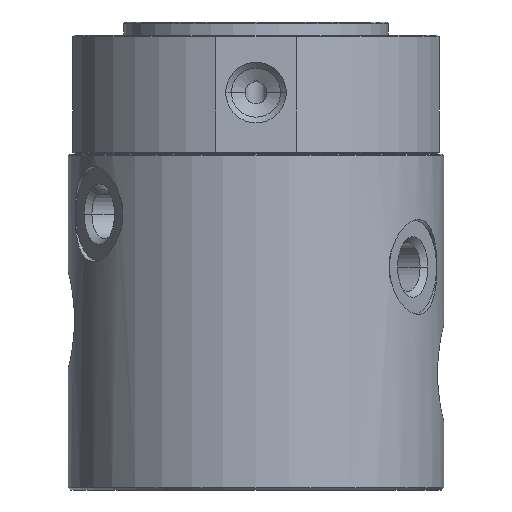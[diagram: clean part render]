
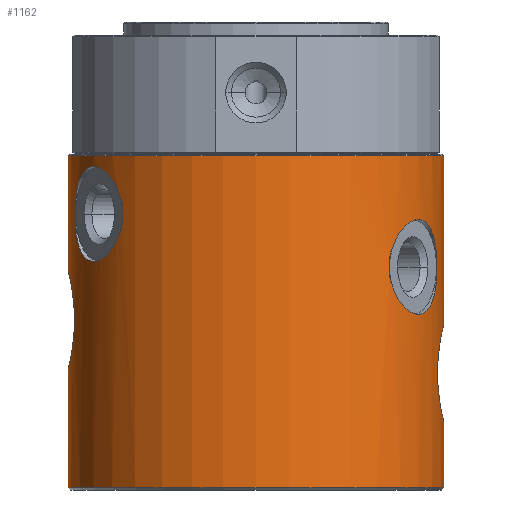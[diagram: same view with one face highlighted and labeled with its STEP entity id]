
A CAD part, front view. The second image highlights one B-rep face of the part: STEP entity #1162.
In plain terms, the highlighted cylindrical face has radius 42.5 mm (diameter 85 mm), a partial arc.
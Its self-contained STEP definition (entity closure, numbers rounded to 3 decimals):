
#283=FACE_BOUND('',#1747,.T.);
#284=FACE_BOUND('',#1748,.T.);
#285=FACE_BOUND('',#1749,.T.);
#348=B_SPLINE_CURVE_WITH_KNOTS('',3,(#7794,#7795,#7796,#7797,#7798,#7799,
#7800,#7801,#7802,#7803),.UNSPECIFIED.,.F.,.F.,(4,2,2,2,4),(0.,0.25,0.5,
0.75,1.),.UNSPECIFIED.);
#349=B_SPLINE_CURVE_WITH_KNOTS('',3,(#7811,#7812,#7813,#7814,#7815,#7816,
#7817,#7818,#7819,#7820),.UNSPECIFIED.,.F.,.F.,(4,2,2,2,4),(0.,0.25,0.5,
0.75,1.),.UNSPECIFIED.);
#350=B_SPLINE_CURVE_WITH_KNOTS('',3,(#7821,#7822,#7823,#7824,#7825,#7826),
 .UNSPECIFIED.,.F.,.F.,(4,2,4),(0.,0.5,1.),.UNSPECIFIED.);
#351=B_SPLINE_CURVE_WITH_KNOTS('',3,(#7829,#7830,#7831,#7832,#7833,#7834,
#7835,#7836,#7837,#7838),.UNSPECIFIED.,.F.,.F.,(4,2,2,2,4),(0.,0.25,0.5,
0.75,1.),.UNSPECIFIED.);
#352=B_SPLINE_CURVE_WITH_KNOTS('',3,(#7840,#7841,#7842,#7843,#7844,#7845),
 .UNSPECIFIED.,.F.,.F.,(4,2,4),(0.,0.5,1.),.UNSPECIFIED.);
#353=B_SPLINE_CURVE_WITH_KNOTS('',3,(#7846,#7847,#7848,#7849,#7850,#7851),
 .UNSPECIFIED.,.F.,.F.,(4,2,4),(0.,0.5,1.),.UNSPECIFIED.);
#354=B_SPLINE_CURVE_WITH_KNOTS('',3,(#7854,#7855,#7856,#7857,#7858,#7859,
#7860,#7861,#7862,#7863),.UNSPECIFIED.,.F.,.F.,(4,2,2,2,4),(0.,0.25,0.5,
0.75,1.),.UNSPECIFIED.);
#355=B_SPLINE_CURVE_WITH_KNOTS('',3,(#7865,#7866,#7867,#7868,#7869,#7870),
 .UNSPECIFIED.,.F.,.F.,(4,2,4),(0.,0.5,1.),.UNSPECIFIED.);
#468=CYLINDRICAL_SURFACE('',#4759,42.5);
#663=LINE('',#7787,#898);
#664=LINE('',#7792,#899);
#665=LINE('',#7805,#900);
#666=LINE('',#7809,#901);
#898=VECTOR('',#5927,1.);
#899=VECTOR('',#5930,1.);
#900=VECTOR('',#5931,1.);
#901=VECTOR('',#5934,1.);
#1162=ADVANCED_FACE('NO 19825',(#283,#284,#285),#468,.T.);
#1747=EDGE_LOOP('',(#2701,#2702,#2703,#2704,#2705,#2706,#2707,#2708));
#1748=EDGE_LOOP('',(#2709,#2710,#2711));
#1749=EDGE_LOOP('',(#2712,#2713,#2714));
#2701=ORIENTED_EDGE('',*,*,#3870,.T.);
#2702=ORIENTED_EDGE('',*,*,#3871,.T.);
#2703=ORIENTED_EDGE('',*,*,#3872,.F.);
#2704=ORIENTED_EDGE('',*,*,#3873,.F.);
#2705=ORIENTED_EDGE('',*,*,#3874,.F.);
#2706=ORIENTED_EDGE('',*,*,#3875,.T.);
#2707=ORIENTED_EDGE('',*,*,#3876,.T.);
#2708=ORIENTED_EDGE('',*,*,#3877,.F.);
#2709=ORIENTED_EDGE('',*,*,#3878,.F.);
#2710=ORIENTED_EDGE('',*,*,#3879,.F.);
#2711=ORIENTED_EDGE('',*,*,#3880,.F.);
#2712=ORIENTED_EDGE('',*,*,#3881,.F.);
#2713=ORIENTED_EDGE('',*,*,#3882,.F.);
#2714=ORIENTED_EDGE('',*,*,#3883,.F.);
#3333=VERTEX_POINT('',#7788);
#3334=VERTEX_POINT('',#7789);
#3335=VERTEX_POINT('',#7791);
#3336=VERTEX_POINT('',#7793);
#3337=VERTEX_POINT('',#7804);
#3338=VERTEX_POINT('',#7806);
#3339=VERTEX_POINT('',#7808);
#3340=VERTEX_POINT('',#7810);
#3341=VERTEX_POINT('',#7827);
#3342=VERTEX_POINT('',#7828);
#3343=VERTEX_POINT('',#7839);
#3344=VERTEX_POINT('',#7852);
#3345=VERTEX_POINT('',#7853);
#3346=VERTEX_POINT('',#7864);
#3870=EDGE_CURVE('NO 19834',#3333,#3334,#663,.T.);
#3871=EDGE_CURVE('NO 19840',#3334,#3335,#4247,.T.);
#3872=EDGE_CURVE('NO 19846',#3336,#3335,#664,.T.);
#3873=EDGE_CURVE('NO 19852',#3337,#3336,#348,.T.);
#3874=EDGE_CURVE('NO 19858',#3338,#3337,#665,.T.);
#3875=EDGE_CURVE('NO 19864',#3338,#3339,#4248,.T.);
#3876=EDGE_CURVE('NO 19870',#3339,#3340,#666,.T.);
#3877=EDGE_CURVE('NO 19874',#3333,#3340,#349,.T.);
#3878=EDGE_CURVE('NO 19883',#3341,#3342,#350,.T.);
#3879=EDGE_CURVE('NO 19889',#3343,#3341,#351,.T.);
#3880=EDGE_CURVE('NO 19893',#3342,#3343,#352,.T.);
#3881=EDGE_CURVE('NO 19902',#3344,#3345,#353,.T.);
#3882=EDGE_CURVE('NO 19908',#3346,#3344,#354,.T.);
#3883=EDGE_CURVE('NO 19912',#3345,#3346,#355,.T.);
#4247=CIRCLE('',#4757,42.5);
#4248=CIRCLE('',#4758,42.5);
#4757=AXIS2_PLACEMENT_3D('',#7790,#5928,#5929);
#4758=AXIS2_PLACEMENT_3D('',#7807,#5932,#5933);
#4759=AXIS2_PLACEMENT_3D('',#7871,#5935,#5936);
#5927=DIRECTION('',(0.,0.,-1.));
#5928=DIRECTION('',(0.,0.,1.));
#5929=DIRECTION('',(-1.,0.,0.));
#5930=DIRECTION('',(0.,0.,-1.));
#5931=DIRECTION('',(0.,0.,-1.));
#5932=DIRECTION('',(0.,0.,-1.));
#5933=DIRECTION('',(1.,0.,0.));
#5934=DIRECTION('',(0.,0.,-1.));
#5935=DIRECTION('',(0.,0.,1.));
#5936=DIRECTION('',(0.,-1.,0.));
#7787=CARTESIAN_POINT('',(-42.5,0.,0.5));
#7788=CARTESIAN_POINT('',(-42.5,0.,27.75));
#7789=CARTESIAN_POINT('',(-42.5,0.,0.5));
#7790=CARTESIAN_POINT('',(0.,0.,0.5));
#7791=CARTESIAN_POINT('',(42.5,0.,0.5));
#7792=CARTESIAN_POINT('',(42.5,0.,0.5));
#7793=CARTESIAN_POINT('',(42.5,0.,15.75));
#7794=CARTESIAN_POINT('',(42.5,0.,37.25));
#7795=CARTESIAN_POINT('',(42.5,-2.853,37.25));
#7796=CARTESIAN_POINT('',(42.173,-5.628,36.075));
#7797=CARTESIAN_POINT('',(41.456,-9.576,32.127));
#7798=CARTESIAN_POINT('',(41.119,-10.747,29.326));
#7799=CARTESIAN_POINT('',(41.117,-10.753,23.693));
#7800=CARTESIAN_POINT('',(41.452,-9.595,20.894));
#7801=CARTESIAN_POINT('',(42.176,-5.615,16.91));
#7802=CARTESIAN_POINT('',(42.5,-2.853,15.75));
#7803=CARTESIAN_POINT('',(42.5,0.,15.75));
#7804=CARTESIAN_POINT('',(42.5,0.,37.25));
#7805=CARTESIAN_POINT('',(42.5,0.,37.25));
#7806=CARTESIAN_POINT('',(42.5,0.,75.7));
#7807=CARTESIAN_POINT('',(0.,0.,75.7));
#7808=CARTESIAN_POINT('',(-42.5,0.,75.7));
#7809=CARTESIAN_POINT('',(-42.5,0.,49.25));
#7810=CARTESIAN_POINT('',(-42.5,0.,49.25));
#7811=CARTESIAN_POINT('',(-42.5,0.,27.75));
#7812=CARTESIAN_POINT('',(-42.5,-2.853,27.75));
#7813=CARTESIAN_POINT('',(-42.173,-5.628,28.925));
#7814=CARTESIAN_POINT('',(-41.456,-9.576,32.873));
#7815=CARTESIAN_POINT('',(-41.119,-10.747,35.674));
#7816=CARTESIAN_POINT('',(-41.117,-10.753,41.307));
#7817=CARTESIAN_POINT('',(-41.452,-9.595,44.106));
#7818=CARTESIAN_POINT('',(-42.176,-5.615,48.09));
#7819=CARTESIAN_POINT('',(-42.5,-2.853,49.25));
#7820=CARTESIAN_POINT('',(-42.5,0.,49.25));
#7821=CARTESIAN_POINT('',(40.984,-11.249,50.5));
#7822=CARTESIAN_POINT('',(40.984,-11.249,53.352));
#7823=CARTESIAN_POINT('',(40.69,-12.434,56.125));
#7824=CARTESIAN_POINT('',(39.338,-16.21,60.073));
#7825=CARTESIAN_POINT('',(38.232,-18.78,61.25));
#7826=CARTESIAN_POINT('',(36.806,-21.25,61.25));
#7827=CARTESIAN_POINT('',(40.984,-11.249,50.5));
#7828=CARTESIAN_POINT('',(36.806,-21.25,61.25));
#7829=CARTESIAN_POINT('',(30.234,-29.869,50.5));
#7830=CARTESIAN_POINT('',(30.234,-29.869,47.647));
#7831=CARTESIAN_POINT('',(31.114,-29.021,44.873));
#7832=CARTESIAN_POINT('',(33.71,-25.96,40.925));
#7833=CARTESIAN_POINT('',(35.392,-23.697,39.753));
#7834=CARTESIAN_POINT('',(38.21,-18.819,39.747));
#7835=CARTESIAN_POINT('',(39.33,-16.233,40.905));
#7836=CARTESIAN_POINT('',(40.695,-12.421,44.886));
#7837=CARTESIAN_POINT('',(40.984,-11.249,47.647));
#7838=CARTESIAN_POINT('',(40.984,-11.249,50.5));
#7839=CARTESIAN_POINT('',(30.234,-29.869,50.5));
#7840=CARTESIAN_POINT('',(36.806,-21.25,61.25));
#7841=CARTESIAN_POINT('',(35.38,-23.72,61.25));
#7842=CARTESIAN_POINT('',(33.711,-25.959,60.076));
#7843=CARTESIAN_POINT('',(31.115,-29.019,56.13));
#7844=CARTESIAN_POINT('',(30.234,-29.869,53.352));
#7845=CARTESIAN_POINT('',(30.234,-29.869,50.5));
#7846=CARTESIAN_POINT('',(-30.234,-29.869,62.5));
#7847=CARTESIAN_POINT('',(-30.234,-29.869,65.352));
#7848=CARTESIAN_POINT('',(-31.113,-29.021,68.125));
#7849=CARTESIAN_POINT('',(-33.707,-25.963,72.073));
#7850=CARTESIAN_POINT('',(-35.38,-23.72,73.25));
#7851=CARTESIAN_POINT('',(-36.806,-21.25,73.25));
#7852=CARTESIAN_POINT('',(-30.234,-29.869,62.5));
#7853=CARTESIAN_POINT('',(-36.806,-21.25,73.25));
#7854=CARTESIAN_POINT('',(-40.984,-11.249,62.5));
#7855=CARTESIAN_POINT('',(-40.984,-11.249,59.647));
#7856=CARTESIAN_POINT('',(-40.69,-12.435,56.873));
#7857=CARTESIAN_POINT('',(-39.337,-16.213,52.925));
#7858=CARTESIAN_POINT('',(-38.219,-18.802,51.753));
#7859=CARTESIAN_POINT('',(-35.403,-23.681,51.747));
#7860=CARTESIAN_POINT('',(-33.723,-25.944,52.905));
#7861=CARTESIAN_POINT('',(-31.105,-29.032,56.886));
#7862=CARTESIAN_POINT('',(-30.234,-29.869,59.647));
#7863=CARTESIAN_POINT('',(-30.234,-29.869,62.5));
#7864=CARTESIAN_POINT('',(-40.984,-11.249,62.5));
#7865=CARTESIAN_POINT('',(-36.806,-21.25,73.25));
#7866=CARTESIAN_POINT('',(-38.232,-18.78,73.25));
#7867=CARTESIAN_POINT('',(-39.336,-16.215,72.076));
#7868=CARTESIAN_POINT('',(-40.689,-12.437,68.13));
#7869=CARTESIAN_POINT('',(-40.984,-11.249,65.352));
#7870=CARTESIAN_POINT('',(-40.984,-11.249,62.5));
#7871=CARTESIAN_POINT('',(0.,0.,0.));
